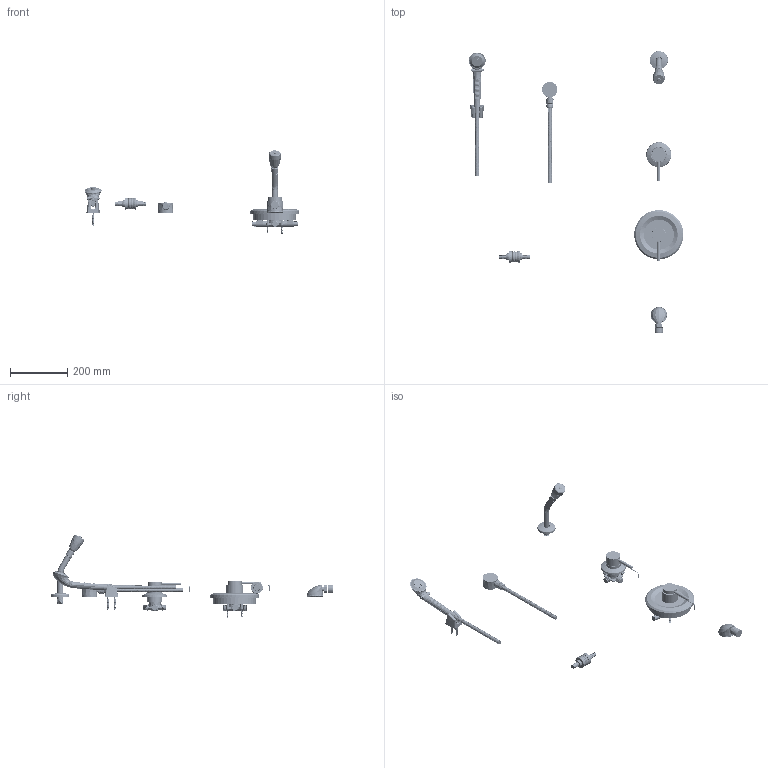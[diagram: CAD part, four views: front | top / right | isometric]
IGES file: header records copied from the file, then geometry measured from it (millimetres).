
Start section:  PTC IGES file: sh-pb5-33-040_rev030724.igs
Global section: file name: sh-pb5-33-040_rev030724.igs; native system: Creo Parametric by PTC Inc.; preprocessor: 2021184; author: rodjo; organization: Unknown; date: 20240307.120631; units: inch
Bounding box: 750.6 x 984.41 x 290.85 mm (x, y, z)
Surface area: 407177.5 mm2 (no closed solid volume)
Topology: 0 solids, 0 shells, 2127 faces, 19156 edges, 26445 vertices
Faces by surface type: revolution 1474, bspline 651, extrusion 2
